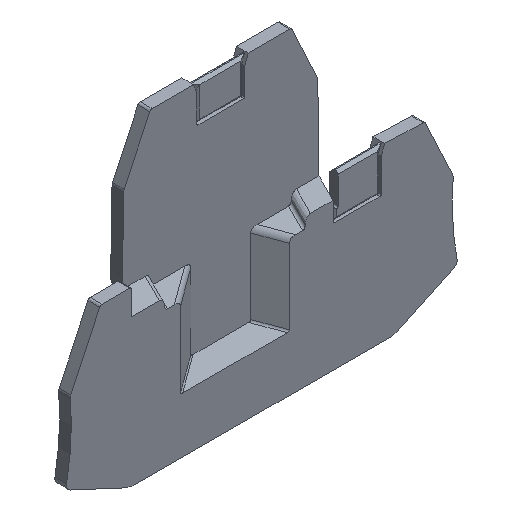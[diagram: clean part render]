
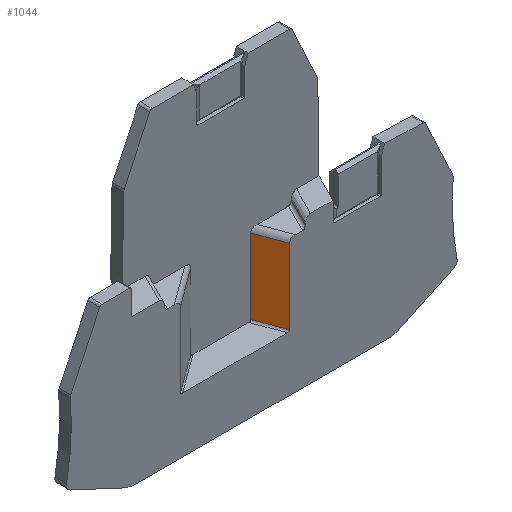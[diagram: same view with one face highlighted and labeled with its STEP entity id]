
A CAD part, isometric view. The second image highlights one B-rep face of the part: STEP entity #1044.
In plain terms, the highlighted planar face has unit normal (-0.5, -0.866, 0).
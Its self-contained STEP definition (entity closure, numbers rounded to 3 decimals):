
#265=CARTESIAN_POINT('',(5.638,-8.35,13.848));
#266=VERTEX_POINT('',#265);
#274=CARTESIAN_POINT('',(5.638,-8.35,27.927));
#275=VERTEX_POINT('',#274);
#276=CARTESIAN_POINT('',(5.638,-8.35,27.927));
#277=DIRECTION('',(0.,0.,-1.));
#278=VECTOR('',#277,14.079);
#279=LINE('',#276,#278);
#280=EDGE_CURVE('',#275,#266,#279,.T.);
#609=CARTESIAN_POINT('',(10.228,-11.,25.277));
#610=VERTEX_POINT('',#609);
#618=CARTESIAN_POINT('',(10.228,-11.,11.198));
#619=VERTEX_POINT('',#618);
#620=CARTESIAN_POINT('',(10.228,-11.,25.277));
#621=DIRECTION('',(0.,0.,-1.));
#622=VECTOR('',#621,14.079);
#623=LINE('',#620,#622);
#624=EDGE_CURVE('',#610,#619,#623,.T.);
#1023=CARTESIAN_POINT('',(7.933,-9.675,19.563));
#1024=DIRECTION('',(-0.866,0.5,0.));
#1025=DIRECTION('',(0.5,0.866,0.));
#1026=AXIS2_PLACEMENT_3D('',#1023,#1025,#1024);
#1027=PLANE('',#1026);
#1028=CARTESIAN_POINT('',(5.638,-8.35,27.927));
#1029=DIRECTION('',(0.775,-0.447,-0.447));
#1030=VECTOR('',#1029,5.926);
#1031=LINE('',#1028,#1030);
#1032=EDGE_CURVE('',#275,#610,#1031,.T.);
#1033=ORIENTED_EDGE('E442',*,*,#1032,.T.);
#1034=ORIENTED_EDGE('E442',*,*,#624,.T.);
#1035=CARTESIAN_POINT('',(10.228,-11.,11.198));
#1036=DIRECTION('',(-0.775,0.447,0.447));
#1037=VECTOR('',#1036,5.926);
#1038=LINE('',#1035,#1037);
#1039=EDGE_CURVE('',#619,#266,#1038,.T.);
#1040=ORIENTED_EDGE('E443',*,*,#1039,.T.);
#1041=ORIENTED_EDGE('E443',*,*,#280,.F.);
#1042=EDGE_LOOP('',(#1033,#1034,#1040,#1041));
#1043=FACE_OUTER_BOUND('',#1042,.F.);
#1044=ADVANCED_FACE('F44',(#1043),#1027,.F.);
